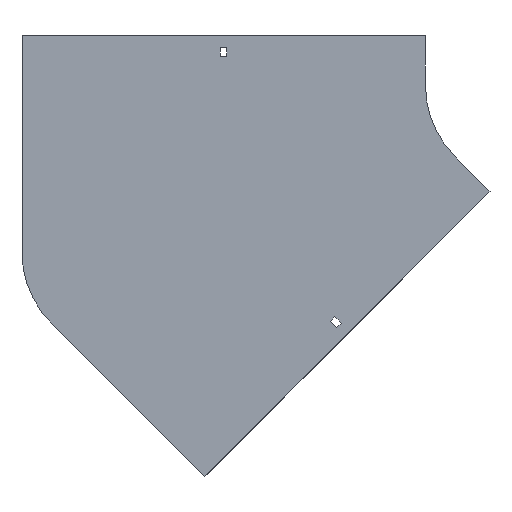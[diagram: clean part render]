
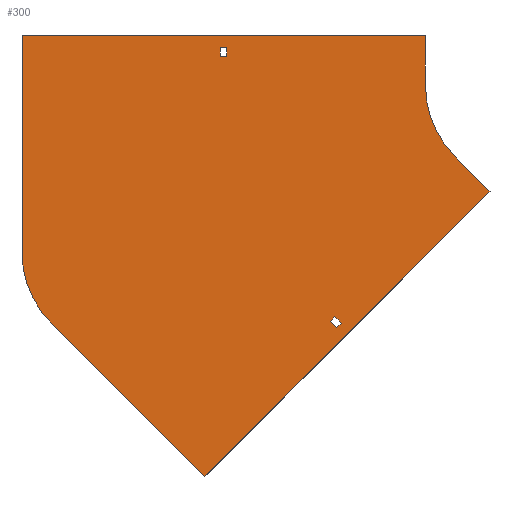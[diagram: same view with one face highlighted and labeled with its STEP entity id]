
A CAD part, front view. The second image highlights one B-rep face of the part: STEP entity #300.
In plain terms, the highlighted planar face has unit normal (0, -1, 0).
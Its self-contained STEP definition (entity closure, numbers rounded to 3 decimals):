
#4 = ORIENTED_EDGE ( 'NONE', *, *, #330, .F. ) ;
#21 = VERTEX_POINT ( 'NONE', #1441 ) ;
#30 = EDGE_LOOP ( 'NONE', ( #288, #910, #755, #1912 ) ) ;
#39 = EDGE_CURVE ( 'NONE', #877, #1707, #519, .T. ) ;
#44 = VERTEX_POINT ( 'NONE', #1849 ) ;
#59 = DIRECTION ( 'NONE',  ( 0.707, 0., 0.707 ) ) ;
#66 = LINE ( 'NONE', #1836, #1042 ) ;
#72 = DIRECTION ( 'NONE',  ( 1., 0., 0. ) ) ;
#94 = CARTESIAN_POINT ( 'NONE',  ( -100., 0., 50. ) ) ;
#98 = VERTEX_POINT ( 'NONE', #1126 ) ;
#111 = DIRECTION ( 'NONE',  ( 0., 0., -1. ) ) ;
#131 = ORIENTED_EDGE ( 'NONE', *, *, #1384, .F. ) ;
#140 = EDGE_CURVE ( 'NONE', #1707, #1648, #717, .T. ) ;
#165 = CARTESIAN_POINT ( 'NONE',  ( -474.711, 0., -238.053 ) ) ;
#173 = CARTESIAN_POINT ( 'NONE',  ( -70.711, 0., -70.711 ) ) ;
#200 = CARTESIAN_POINT ( 'NONE',  ( -35.355, 0., -106.066 ) ) ;
#211 = LINE ( 'NONE', #1420, #650 ) ;
#235 = CARTESIAN_POINT ( 'NONE',  ( 0., 0., 0. ) ) ;
#245 = AXIS2_PLACEMENT_3D ( 'NONE', #1531, #317, #1503 ) ;
#254 = VECTOR ( 'NONE', #111, 1000. ) ;
#267 = AXIS2_PLACEMENT_3D ( 'NONE', #235, #1285, #536 ) ;
#288 = ORIENTED_EDGE ( 'NONE', *, *, #831, .T. ) ;
#296 = DIRECTION ( 'NONE',  ( -0.707, 0., -0.707 ) ) ;
#300 = ADVANCED_FACE ( 'NONE', ( #462, #1661, #1218 ), #913, .T. ) ;
#302 = CARTESIAN_POINT ( 'NONE',  ( -504., 0., -167.342 ) ) ;
#305 = VERTEX_POINT ( 'NONE', #165 ) ;
#317 = DIRECTION ( 'NONE',  ( 0., -1., 0. ) ) ;
#319 = ORIENTED_EDGE ( 'NONE', *, *, #639, .F. ) ;
#330 = EDGE_CURVE ( 'NONE', #1336, #1104, #617, .T. ) ;
#376 = VECTOR ( 'NONE', #538, 1000. ) ;
#418 = EDGE_CURVE ( 'NONE', #44, #475, #1585, .T. ) ;
#423 = DIRECTION ( 'NONE',  ( 0.707, 0., -0.707 ) ) ;
#462 = FACE_BOUND ( 'NONE', #30, .T. ) ;
#473 = DIRECTION ( 'NONE',  ( 0., 0., 1. ) ) ;
#475 = VERTEX_POINT ( 'NONE', #1085 ) ;
#480 = VERTEX_POINT ( 'NONE', #200 ) ;
#490 = VECTOR ( 'NONE', #592, 1000. ) ;
#500 = VECTOR ( 'NONE', #1416, 1000. ) ;
#506 = ORIENTED_EDGE ( 'NONE', *, *, #1316, .F. ) ;
#519 = LINE ( 'NONE', #1408, #1781 ) ;
#536 = DIRECTION ( 'NONE',  ( 0., 0., -1. ) ) ;
#538 = DIRECTION ( 'NONE',  ( 1., 0., 0. ) ) ;
#543 = CARTESIAN_POINT ( 'NONE',  ( -298.75, 0., 38. ) ) ;
#560 = CARTESIAN_POINT ( 'NONE',  ( -298.75, 0., 29. ) ) ;
#570 = CARTESIAN_POINT ( 'NONE',  ( -321.026, 0., -391.737 ) ) ;
#577 = CARTESIAN_POINT ( 'NONE',  ( -35.355, 0., -106.066 ) ) ;
#587 = EDGE_LOOP ( 'NONE', ( #131, #4, #1726, #319, #1052, #1590, #1041, #506 ) ) ;
#592 = DIRECTION ( 'NONE',  ( 0., 0., 1. ) ) ;
#617 = LINE ( 'NONE', #302, #490 ) ;
#632 = CIRCLE ( 'NONE', #267, 100. ) ;
#635 = DIRECTION ( 'NONE',  ( 0.707, 0., -0.707 ) ) ;
#639 = EDGE_CURVE ( 'NONE', #1455, #305, #1918, .T. ) ;
#642 = EDGE_LOOP ( 'NONE', ( #1571, #1415, #669, #1560 ) ) ;
#650 = VECTOR ( 'NONE', #72, 1000. ) ;
#661 = CARTESIAN_POINT ( 'NONE',  ( -188.974, 0., -242.714 ) ) ;
#662 = EDGE_CURVE ( 'NONE', #98, #1412, #1177, .T. ) ;
#669 = ORIENTED_EDGE ( 'NONE', *, *, #845, .F. ) ;
#670 = DIRECTION ( 'NONE',  ( -0.707, 0., -0.707 ) ) ;
#717 = LINE ( 'NONE', #1496, #1445 ) ;
#755 = ORIENTED_EDGE ( 'NONE', *, *, #1931, .T. ) ;
#775 = DIRECTION ( 'NONE',  ( 0., 1., 0. ) ) ;
#831 = EDGE_CURVE ( 'NONE', #475, #98, #1556, .T. ) ;
#845 = EDGE_CURVE ( 'NONE', #1648, #1944, #66, .T. ) ;
#856 = VECTOR ( 'NONE', #423, 1000. ) ;
#877 = VERTEX_POINT ( 'NONE', #661 ) ;
#910 = ORIENTED_EDGE ( 'NONE', *, *, #662, .T. ) ;
#913 = PLANE ( 'NONE',  #245 ) ;
#924 = EDGE_CURVE ( 'NONE', #1944, #877, #1601, .T. ) ;
#932 = AXIS2_PLACEMENT_3D ( 'NONE', #1058, #775, #473 ) ;
#942 = DIRECTION ( 'NONE',  ( 0., 0., -1. ) ) ;
#953 = VERTEX_POINT ( 'NONE', #1447 ) ;
#957 = CARTESIAN_POINT ( 'NONE',  ( -305.25, 0., 29. ) ) ;
#963 = CARTESIAN_POINT ( 'NONE',  ( -504., 0., -167.342 ) ) ;
#992 = CARTESIAN_POINT ( 'NONE',  ( -195.338, 0., -236.35 ) ) ;
#998 = CARTESIAN_POINT ( 'NONE',  ( -195.338, 0., -236.35 ) ) ;
#1017 = LINE ( 'NONE', #577, #1734 ) ;
#1026 = EDGE_CURVE ( 'NONE', #21, #953, #632, .T. ) ;
#1041 = ORIENTED_EDGE ( 'NONE', *, *, #1026, .F. ) ;
#1042 = VECTOR ( 'NONE', #670, 1000. ) ;
#1052 = ORIENTED_EDGE ( 'NONE', *, *, #1081, .F. ) ;
#1058 = CARTESIAN_POINT ( 'NONE',  ( -404., 0., -167.342 ) ) ;
#1068 = LINE ( 'NONE', #173, #1120 ) ;
#1081 = EDGE_CURVE ( 'NONE', #480, #1455, #1017, .T. ) ;
#1085 = CARTESIAN_POINT ( 'NONE',  ( -305.25, 0., 29. ) ) ;
#1104 = VERTEX_POINT ( 'NONE', #1501 ) ;
#1120 = VECTOR ( 'NONE', #635, 1000. ) ;
#1126 = CARTESIAN_POINT ( 'NONE',  ( -305.25, 0., 38. ) ) ;
#1158 = VECTOR ( 'NONE', #1769, 1000. ) ;
#1177 = LINE ( 'NONE', #1287, #376 ) ;
#1218 = FACE_BOUND ( 'NONE', #642, .T. ) ;
#1285 = DIRECTION ( 'NONE',  ( 0., -1., 0. ) ) ;
#1287 = CARTESIAN_POINT ( 'NONE',  ( -305.25, 0., 38. ) ) ;
#1316 = EDGE_CURVE ( 'NONE', #1429, #21, #1442, .T. ) ;
#1336 = VERTEX_POINT ( 'NONE', #963 ) ;
#1370 = CARTESIAN_POINT ( 'NONE',  ( -190.742, 0., -231.754 ) ) ;
#1384 = EDGE_CURVE ( 'NONE', #1104, #1429, #211, .T. ) ;
#1401 = DIRECTION ( 'NONE',  ( 0., 0., 1. ) ) ;
#1408 = CARTESIAN_POINT ( 'NONE',  ( -188.974, 0., -242.714 ) ) ;
#1412 = VERTEX_POINT ( 'NONE', #543 ) ;
#1414 = CARTESIAN_POINT ( 'NONE',  ( -305.25, 0., 29. ) ) ;
#1415 = ORIENTED_EDGE ( 'NONE', *, *, #924, .F. ) ;
#1416 = DIRECTION ( 'NONE',  ( -1., 0., 0. ) ) ;
#1420 = CARTESIAN_POINT ( 'NONE',  ( -504., 0., 50. ) ) ;
#1429 = VERTEX_POINT ( 'NONE', #94 ) ;
#1441 = CARTESIAN_POINT ( 'NONE',  ( -100., 0., 0. ) ) ;
#1442 = LINE ( 'NONE', #1889, #1569 ) ;
#1445 = VECTOR ( 'NONE', #1616, 1000. ) ;
#1447 = CARTESIAN_POINT ( 'NONE',  ( -70.711, 0., -70.711 ) ) ;
#1455 = VERTEX_POINT ( 'NONE', #1497 ) ;
#1496 = CARTESIAN_POINT ( 'NONE',  ( -190.742, 0., -231.754 ) ) ;
#1497 = CARTESIAN_POINT ( 'NONE',  ( -321.026, 0., -391.737 ) ) ;
#1501 = CARTESIAN_POINT ( 'NONE',  ( -504., 0., 50. ) ) ;
#1503 = DIRECTION ( 'NONE',  ( 0., 0., -1. ) ) ;
#1531 = CARTESIAN_POINT ( 'NONE',  ( 0., 0., 0. ) ) ;
#1538 = CIRCLE ( 'NONE', #932, 100. ) ;
#1556 = LINE ( 'NONE', #1414, #1894 ) ;
#1560 = ORIENTED_EDGE ( 'NONE', *, *, #140, .F. ) ;
#1567 = CARTESIAN_POINT ( 'NONE',  ( -184.378, 0., -238.118 ) ) ;
#1569 = VECTOR ( 'NONE', #942, 1000. ) ;
#1571 = ORIENTED_EDGE ( 'NONE', *, *, #39, .F. ) ;
#1585 = LINE ( 'NONE', #957, #500 ) ;
#1590 = ORIENTED_EDGE ( 'NONE', *, *, #1633, .F. ) ;
#1601 = LINE ( 'NONE', #998, #856 ) ;
#1616 = DIRECTION ( 'NONE',  ( -0.707, 0., 0.707 ) ) ;
#1633 = EDGE_CURVE ( 'NONE', #953, #480, #1068, .T. ) ;
#1648 = VERTEX_POINT ( 'NONE', #1370 ) ;
#1661 = FACE_OUTER_BOUND ( 'NONE', #587, .T. ) ;
#1663 = EDGE_CURVE ( 'NONE', #305, #1336, #1538, .T. ) ;
#1707 = VERTEX_POINT ( 'NONE', #1567 ) ;
#1726 = ORIENTED_EDGE ( 'NONE', *, *, #1663, .F. ) ;
#1734 = VECTOR ( 'NONE', #296, 1000. ) ;
#1769 = DIRECTION ( 'NONE',  ( -0.707, 0., 0.707 ) ) ;
#1781 = VECTOR ( 'NONE', #59, 1000. ) ;
#1836 = CARTESIAN_POINT ( 'NONE',  ( -195.338, 0., -236.35 ) ) ;
#1849 = CARTESIAN_POINT ( 'NONE',  ( -298.75, 0., 29. ) ) ;
#1889 = CARTESIAN_POINT ( 'NONE',  ( -100., 0., 50. ) ) ;
#1894 = VECTOR ( 'NONE', #1401, 1000. ) ;
#1912 = ORIENTED_EDGE ( 'NONE', *, *, #418, .T. ) ;
#1918 = LINE ( 'NONE', #570, #1158 ) ;
#1920 = LINE ( 'NONE', #560, #254 ) ;
#1931 = EDGE_CURVE ( 'NONE', #1412, #44, #1920, .T. ) ;
#1944 = VERTEX_POINT ( 'NONE', #992 ) ;
